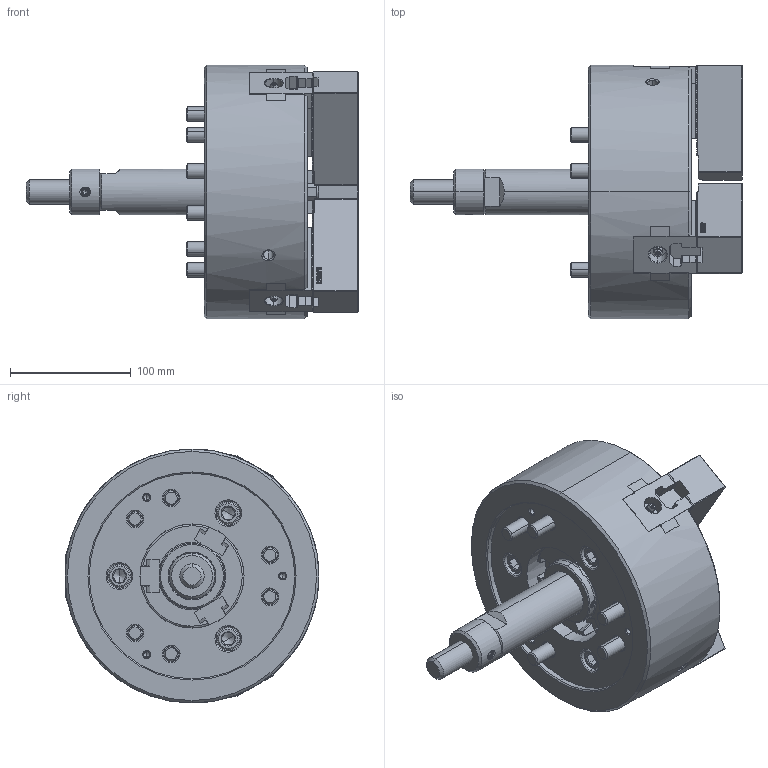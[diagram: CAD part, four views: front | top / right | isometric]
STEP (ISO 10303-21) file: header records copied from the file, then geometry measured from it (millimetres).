
FILE_DESCRIPTION (( 'STEP AP214' ), '1' );
FILE_NAME ('DT1_N-08_OUTSIDE_VIEW_HCL.STEP', '2026-03-13T04:46:44', ( '' ), ( '' ), 'SwSTEP 2.0', 'SolidWorks 2022', '' );
FILE_SCHEMA (( 'AUTOMOTIVE_DESIGN' ));
Length unit declared in the file: millimetre
Products named in the file (11): DT1_N-08_TNUT^DT1_N-08; DT1_N-08_BASE^DT1_N-08; DT1_N-08_COVER^DT1_N-08; DT1_N-08_M12x85^DT1_N-08; DT1_N-08_OUTSIDE_VIEW_HCL; DT1_N-08_SOFTJAW^DT1_N-08; DT1_N-08_DN^DT1_N-08; DT1_N-08_M5x12^DT1_N-08; DT1_N-08_DRAWSCREW^DT1_N-08; Copy of 61P310518^DT1_N-08; DT1_N-08_M12x35^DT1_N-08
Assembly tree (26 placements, depth 2):
  DT1_N-08_OUTSIDE_VIEW_HCL
    DT1_N-08_SOFTJAW^DT1_N-08  x3
    DT1_N-08_TNUT^DT1_N-08  x3
    DT1_N-08_COVER^DT1_N-08
    DT1_N-08_DRAWSCREW^DT1_N-08
    Copy of 61P310518^DT1_N-08
    DT1_N-08_DN^DT1_N-08
    DT1_N-08_BASE^DT1_N-08
    DT1_N-08_M5x12^DT1_N-08  x3
    DT1_N-08_M12x35^DT1_N-08  x6
    DT1_N-08_M12x85^DT1_N-08  x6
Bounding box: 274.5 x 210 x 210 mm (x, y, z)
Volume: 3149164.7 mm3; surface area: 388602.1 mm2
Topology: 26 solids, 26 shells, 4711 faces, 13218 edges, 8648 vertices
Faces by surface type: plane 2738, cylinder 1132, bspline 427, cone 350, torus 58, sphere 6
Entity records: 107678 total; most frequent: CARTESIAN_POINT 33721, ORIENTED_EDGE 16828, DIRECTION 13038, EDGE_CURVE 8414, VECTOR 5898, LINE 5898, VERTEX_POINT 5508, AXIS2_PLACEMENT_3D 3570
